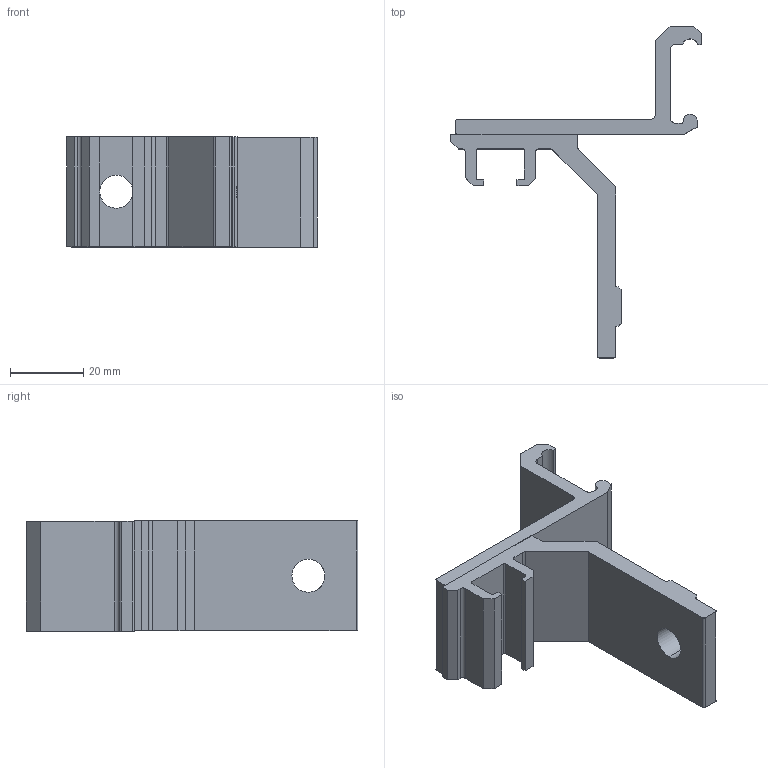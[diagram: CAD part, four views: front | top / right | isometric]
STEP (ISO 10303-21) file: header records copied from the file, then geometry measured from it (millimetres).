
FILE_DESCRIPTION (( 'STEP AP214' ), '1' );
FILE_NAME ('FABER - FGRA 16x30x52.STEP', '2017-04-05T12:12:06', ( '' ), ( '' ), 'SwSTEP 2.0', 'SolidWorks 2016', '' );
FILE_SCHEMA (( 'AUTOMOTIVE_DESIGN' ));
Length unit declared in the file: millimetre
Products named in the file (3): Partie inf fgra-16X30X52; Partie sup. FGRA-16X30X52 ET 41X30X52; FABER - FGRA 16x30x52
Assembly tree (2 placements, depth 2):
  FABER - FGRA 16x30x52
    Partie inf fgra-16X30X52
    Partie sup. FGRA-16X30X52 ET 41X30X52
Bounding box: 68.3 x 90.5 x 30.15 mm (x, y, z)
Volume: 25395.7 mm3; surface area: 14963.2 mm2
Topology: 2 solids, 2 shells, 78 faces, 225 edges, 150 vertices
Faces by surface type: plane 51, cylinder 27
Entity records: 3445 total; most frequent: CARTESIAN_POINT 461, ORIENTED_EDGE 450, DIRECTION 445, EDGE_CURVE 225, LINE 169, VECTOR 169, VERTEX_POINT 150, AXIS2_PLACEMENT_3D 138
